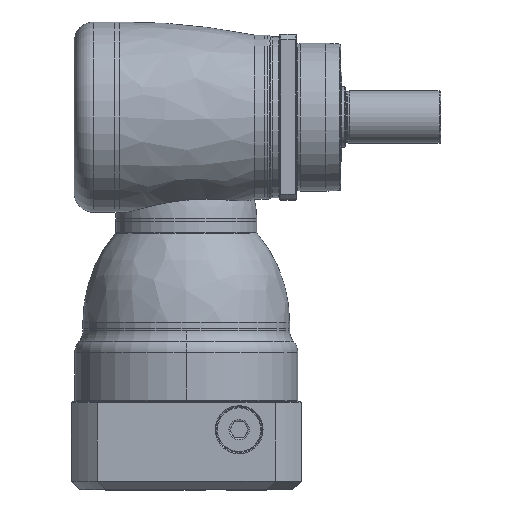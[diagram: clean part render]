
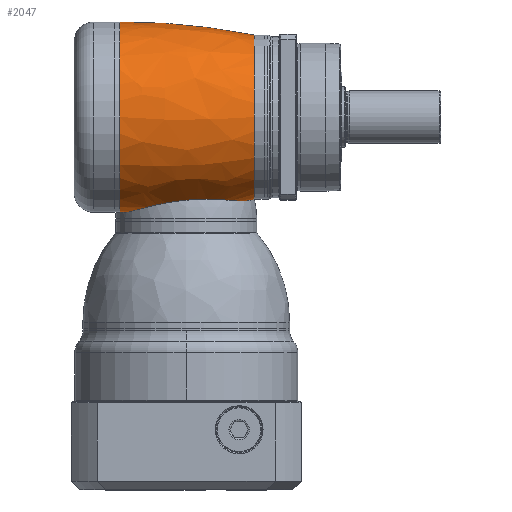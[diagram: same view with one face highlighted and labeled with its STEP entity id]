
A CAD part, top view. The second image highlights one B-rep face of the part: STEP entity #2047.
In plain terms, the highlighted free-form (B-spline) face has degree [3, 3] with [7, 4] control points.
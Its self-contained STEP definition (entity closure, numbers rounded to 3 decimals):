
#537=CARTESIAN_POINT('',(-38.133,341.993,
0.));
#538=DIRECTION('',(0.,0.,-1.));
#539=DIRECTION('',(0.199,-0.98,0.));
#540=AXIS2_PLACEMENT_3D('',#537,#538,#539);
#547=CARTESIAN_POINT('',(-38.133,-341.993,
0.));
#548=DIRECTION('',(0.,0.,1.));
#549=DIRECTION('',(0.199,0.98,0.));
#550=AXIS2_PLACEMENT_3D('',#547,#548,#549);
#570=CARTESIAN_POINT('',(-40.5,-57.915,-3.141));
#572=CARTESIAN_POINT('',(37.853,-50.723,
0.));
#573=CARTESIAN_POINT('',(37.201,-50.849,1.535));
#574=CARTESIAN_POINT('',(35.679,-51.003,4.541));
#575=CARTESIAN_POINT('',(32.646,-50.982,8.913));
#576=CARTESIAN_POINT('',(28.982,-50.777,12.881));
#577=CARTESIAN_POINT('',(24.797,-50.487,16.34));
#578=CARTESIAN_POINT('',(20.137,-50.203,19.257));
#579=CARTESIAN_POINT('',(15.063,-50.016,21.589));
#580=CARTESIAN_POINT('',(9.633,-50.004,23.29));
#581=CARTESIAN_POINT('',(3.914,-50.231,24.313));
#582=CARTESIAN_POINT('',(-2.014,-50.741,24.595));
#583=CARTESIAN_POINT('',(-7.959,-51.534,24.088));
#584=CARTESIAN_POINT('',(-13.747,-52.561,22.787));
#585=CARTESIAN_POINT('',(-19.259,-53.743,20.707));
#586=CARTESIAN_POINT('',(-24.358,-54.972,17.898));
#587=CARTESIAN_POINT('',(-28.918,-56.121,14.452));
#588=CARTESIAN_POINT('',(-32.85,-57.073,10.493));
#589=CARTESIAN_POINT('',(-36.11,-57.736,6.162));
#590=CARTESIAN_POINT('',(-38.693,-58.049,1.578));
#591=CARTESIAN_POINT('',(-39.967,-58.004,
-1.557));
#592=CARTESIAN_POINT('',(-40.5,-57.915,-3.141));
#594=CARTESIAN_POINT('',(41.5,0.,0.));
#595=DIRECTION('',(1.,0.,0.));
#596=DIRECTION('',(0.,1.,0.));
#597=AXIS2_PLACEMENT_3D('',#594,#595,#596);
#612=CARTESIAN_POINT('',(-40.5,0.,0.));
#613=DIRECTION('',(-1.,0.,0.));
#614=DIRECTION('',(0.,-0.999,-0.054));
#615=AXIS2_PLACEMENT_3D('',#612,#613,#614);
#617=CARTESIAN_POINT('',(-40.5,0.,0.));
#618=DIRECTION('',(1.,0.,0.));
#619=DIRECTION('',(0.,1.,0.));
#620=AXIS2_PLACEMENT_3D('',#617,#618,#619);
#813=CARTESIAN_POINT('',(41.5,50.,0.));
#815=VERTEX_POINT('',#813);
#816=CARTESIAN_POINT('',(-40.5,58.,0.));
#817=VERTEX_POINT('',#816);
#819=CARTESIAN_POINT('',(41.5,-50.,0.));
#821=VERTEX_POINT('',#819);
#822=CARTESIAN_POINT('',(37.853,-50.723,
0.));
#823=VERTEX_POINT('',#822);
#826=CARTESIAN_POINT('',(-40.5,-58.,0.));
#828=VERTEX_POINT('',#826);
#855=VERTEX_POINT('',#570);
#2007=CARTESIAN_POINT('',(-42.151,57.868,
-3.704));
#2008=CARTESIAN_POINT('',(-13.485,58.156,
-3.722));
#2009=CARTESIAN_POINT('',(15.047,55.378,-3.544));
#2010=CARTESIAN_POINT('',(43.117,49.567,-3.172));
#2011=CARTESIAN_POINT('',(-42.151,60.198,32.694));
#2012=CARTESIAN_POINT('',(-13.485,60.497,32.856));
#2013=CARTESIAN_POINT('',(15.047,57.607,31.287));
#2014=CARTESIAN_POINT('',(43.117,51.562,28.003));
#2015=CARTESIAN_POINT('',(-42.151,34.888,58.954));
#2016=CARTESIAN_POINT('',(-13.485,35.061,59.246));
#2017=CARTESIAN_POINT('',(15.047,33.386,56.416));
#2018=CARTESIAN_POINT('',(43.117,29.883,50.496));
#2019=CARTESIAN_POINT('',(-42.151,-1.571,
57.966));
#2020=CARTESIAN_POINT('',(-13.485,-1.579,
58.253));
#2021=CARTESIAN_POINT('',(15.047,-1.503,55.471));
#2022=CARTESIAN_POINT('',(43.117,-1.346,49.65));
#2023=CARTESIAN_POINT('',(-42.151,-38.029,
56.977));
#2024=CARTESIAN_POINT('',(-13.485,-38.218,
57.26));
#2025=CARTESIAN_POINT('',(15.047,-36.393,54.525));
#2026=CARTESIAN_POINT('',(43.117,-32.574,48.804));
#2027=CARTESIAN_POINT('',(-42.151,-61.88,
29.385));
#2028=CARTESIAN_POINT('',(-13.485,-62.188,
29.531));
#2029=CARTESIAN_POINT('',(15.047,-59.217,28.121));
#2030=CARTESIAN_POINT('',(43.117,-53.003,25.17));
#2031=CARTESIAN_POINT('',(-42.151,-57.583,
-6.833));
#2032=CARTESIAN_POINT('',(-13.485,-57.869,
-6.866));
#2033=CARTESIAN_POINT('',(15.047,-55.105,
-6.538));
#2034=CARTESIAN_POINT('',(43.117,-49.322,
-5.852));
#2035=(BOUNDED_SURFACE()B_SPLINE_SURFACE(3,3,((#2007,#2008,#2009,#2010),(#2011,
#2012,#2013,#2014),(#2015,#2016,#2017,#2018),(#2019,#2020,#2021,#2022),(#2023,
#2024,#2025,#2026),(#2027,#2028,#2029,#2030),(#2031,#2032,#2033,#2034)),
.UNSPECIFIED.,.F.,.F.,.F.)B_SPLINE_SURFACE_WITH_KNOTS((4,3,4),(4,4),(0.,1.,
2.),(0.,1.),.UNSPECIFIED.)GEOMETRIC_REPRESENTATION_ITEM()RATIONAL_B_SPLINE_SURFACE(((1.198,1.193,1.193,1.198),(
0.938,0.934,0.934,0.938),(
0.938,0.934,0.934,0.938),(
1.198,1.193,1.193,1.198),(
0.938,0.934,0.934,0.938),(
0.938,0.934,0.934,0.938),(
1.198,1.193,1.193,1.198)))REPRESENTATION_ITEM('')SURFACE());
#2036=ORIENTED_EDGE('',*,*,#1996,.T.);
#2038=ORIENTED_EDGE('',*,*,#2037,.T.);
#2040=ORIENTED_EDGE('',*,*,#2039,.F.);
#2041=ORIENTED_EDGE('',*,*,#1984,.F.);
#2043=ORIENTED_EDGE('',*,*,#2042,.T.);
#2044=ORIENTED_EDGE('',*,*,#1980,.T.);
#2045=EDGE_LOOP('',(#2036,#2038,#2040,#2041,#2043,#2044));
#2046=FACE_OUTER_BOUND('',#2045,.F.);
#2047=ADVANCED_FACE('',(#2046),#2035,.T.);
#541=CIRCLE('',#540,400.);
#551=CIRCLE('',#550,400.);
#593=B_SPLINE_CURVE_WITH_KNOTS('',3,(#572,#573,#574,#575,#576,#577,#578,#579,
#580,#581,#582,#583,#584,#585,#586,#587,#588,#589,#590,#591,#592),.UNSPECIFIED.,
.F.,.F.,(4,1,1,1,1,1,1,1,1,1,1,1,1,1,1,1,1,1,4),(0.,0.056,
0.111,0.167,0.222,0.278,
0.333,0.389,0.444,0.5,0.556,
0.611,0.667,0.722,0.778,
0.833,0.889,0.944,1.),.UNSPECIFIED.);
#598=CIRCLE('',#597,50.);
#616=CIRCLE('',#615,58.);
#621=CIRCLE('',#620,58.);
#1980=EDGE_CURVE('',#821,#823,#541,.T.);
#1984=EDGE_CURVE('',#815,#817,#551,.T.);
#1996=EDGE_CURVE('',#823,#855,#593,.T.);
#2037=EDGE_CURVE('',#855,#828,#616,.T.);
#2039=EDGE_CURVE('',#817,#828,#621,.T.);
#2042=EDGE_CURVE('',#815,#821,#598,.T.);
